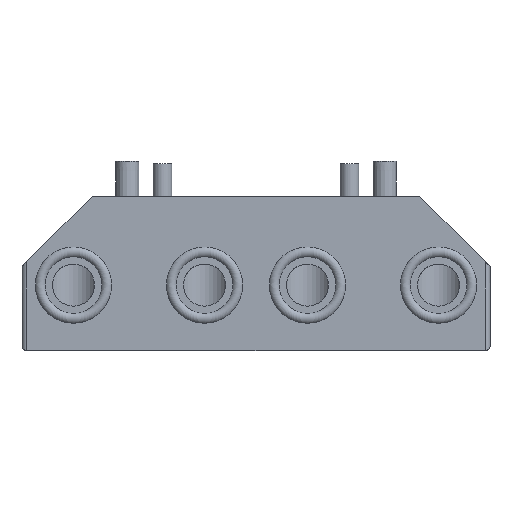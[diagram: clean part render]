
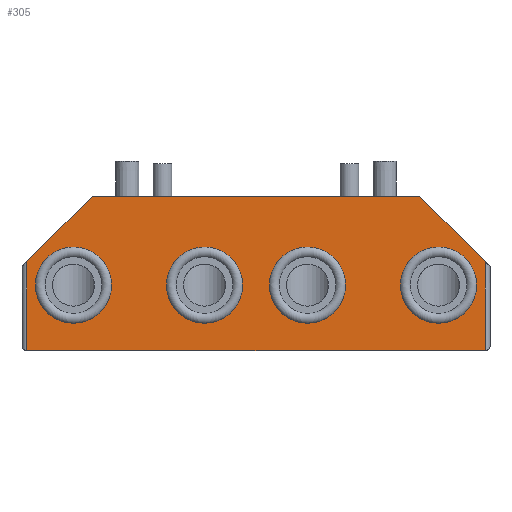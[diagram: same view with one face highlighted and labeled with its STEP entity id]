
A CAD part, top view. The second image highlights one B-rep face of the part: STEP entity #305.
In plain terms, the highlighted planar face has unit normal (0, 0, 1).
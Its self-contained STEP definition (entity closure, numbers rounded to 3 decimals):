
#305=ADVANCED_FACE('',(#643,#644,#645,#646,#647),#648,.T.);
#643=FACE_BOUND('',#992,.T.);
#644=FACE_BOUND('',#993,.T.);
#645=FACE_BOUND('',#994,.T.);
#646=FACE_BOUND('',#995,.T.);
#647=FACE_OUTER_BOUND('',#996,.T.);
#648=PLANE('',#997);
#992=EDGE_LOOP('',(#1578));
#993=EDGE_LOOP('',(#1579));
#994=EDGE_LOOP('',(#1580));
#995=EDGE_LOOP('',(#1581));
#996=EDGE_LOOP('',(#1582,#1583,#1584,#1585,#1586,#1587));
#997=AXIS2_PLACEMENT_3D('',#1588,#1589,#1590);
#1578=ORIENTED_EDGE('',*,*,#1882,.F.);
#1579=ORIENTED_EDGE('',*,*,#1900,.F.);
#1580=ORIENTED_EDGE('',*,*,#1897,.F.);
#1581=ORIENTED_EDGE('',*,*,#1907,.F.);
#1582=ORIENTED_EDGE('',*,*,#1789,.T.);
#1583=ORIENTED_EDGE('',*,*,#1908,.T.);
#1584=ORIENTED_EDGE('',*,*,#1826,.T.);
#1585=ORIENTED_EDGE('',*,*,#1738,.T.);
#1586=ORIENTED_EDGE('',*,*,#1759,.T.);
#1587=ORIENTED_EDGE('',*,*,#1756,.T.);
#1588=CARTESIAN_POINT('',(-50.0,-33.0,14.0));
#1589=DIRECTION('',(0.0,0.0,1.0));
#1590=DIRECTION('',(1.0,0.0,0.0));
#1738=EDGE_CURVE('',#1992,#1993,#1994,.T.);
#1756=EDGE_CURVE('',#2026,#2024,#2027,.T.);
#1759=EDGE_CURVE('',#1993,#2026,#2030,.T.);
#1789=EDGE_CURVE('',#2024,#2077,#2079,.T.);
#1826=EDGE_CURVE('',#2132,#1992,#2133,.T.);
#1882=EDGE_CURVE('',#2210,#2210,#2211,.T.);
#1897=EDGE_CURVE('',#2228,#2228,#2229,.T.);
#1900=EDGE_CURVE('',#2233,#2233,#2234,.T.);
#1907=EDGE_CURVE('',#2242,#2242,#2243,.T.);
#1908=EDGE_CURVE('',#2077,#2132,#2244,.T.);
#1992=VERTEX_POINT('',#2419);
#1993=VERTEX_POINT('',#2420);
#1994=LINE('',#2421,#2422);
#2024=VERTEX_POINT('',#2459);
#2026=VERTEX_POINT('',#2462);
#2027=LINE('',#2463,#2464);
#2030=LINE('',#2468,#2469);
#2077=VERTEX_POINT('',#2610);
#2079=LINE('',#2612,#2613);
#2132=VERTEX_POINT('',#2837);
#2133=LINE('',#2838,#2839);
#2210=VERTEX_POINT('',#2932);
#2211=CIRCLE('',#2933,8.139);
#2228=VERTEX_POINT('',#2954);
#2229=CIRCLE('',#2955,8.139);
#2233=VERTEX_POINT('',#2959);
#2234=CIRCLE('',#2960,8.139);
#2242=VERTEX_POINT('',#2969);
#2243=CIRCLE('',#2970,8.139);
#2244=LINE('',#2971,#2972);
#2419=CARTESIAN_POINT('',(-35.0,0.0,14.0));
#2420=CARTESIAN_POINT('',(-49.0,-14.0,14.0));
#2421=CARTESIAN_POINT('',(-59.0,-24.0,14.0));
#2422=VECTOR('',#3045,1.0);
#2459=CARTESIAN_POINT('',(49.0,-33.0,14.0));
#2462=CARTESIAN_POINT('',(-49.0,-33.0,14.0));
#2463=CARTESIAN_POINT('',(-50.0,-33.0,14.0));
#2464=VECTOR('',#3075,1.0);
#2468=CARTESIAN_POINT('',(-49.0,-33.0,14.0));
#2469=VECTOR('',#3077,1.0);
#2610=CARTESIAN_POINT('',(49.0,-14.0,14.0));
#2612=CARTESIAN_POINT('',(49.0,0.0,14.0));
#2613=VECTOR('',#3119,1.0);
#2837=CARTESIAN_POINT('',(35.0,0.0,14.0));
#2838=CARTESIAN_POINT('',(50.0,0.0,14.0));
#2839=VECTOR('',#3162,1.0);
#2932=CARTESIAN_POINT('',(47.139,-19.0,14.0));
#2933=AXIS2_PLACEMENT_3D('',#3224,#3225,#3226);
#2954=CARTESIAN_POINT('',(-30.861,-19.0,14.0));
#2955=AXIS2_PLACEMENT_3D('',#3237,#3238,#3239);
#2959=CARTESIAN_POINT('',(-2.861,-19.0,14.0));
#2960=AXIS2_PLACEMENT_3D('',#3243,#3244,#3245);
#2969=CARTESIAN_POINT('',(19.139,-19.0,14.0));
#2970=AXIS2_PLACEMENT_3D('',#3250,#3251,#3252);
#2971=CARTESIAN_POINT('',(9.,26.0,14.0));
#2972=VECTOR('',#3253,1.0);
#3045=DIRECTION('',(-0.707,-0.707,0.0));
#3075=DIRECTION('',(1.0,0.0,0.0));
#3077=DIRECTION('',(0.0,-1.0,0.0));
#3119=DIRECTION('',(0.0,1.0,0.0));
#3162=DIRECTION('',(-1.0,0.0,0.0));
#3224=CARTESIAN_POINT('',(39.0,-19.0,14.0));
#3225=DIRECTION('',(0.0,0.0,1.0));
#3226=DIRECTION('',(1.0,0.0,0.0));
#3237=CARTESIAN_POINT('',(-39.0,-19.0,14.0));
#3238=DIRECTION('',(0.0,0.0,1.0));
#3239=DIRECTION('',(1.0,0.0,0.0));
#3243=CARTESIAN_POINT('',(-11.0,-19.0,14.0));
#3244=DIRECTION('',(0.0,0.0,1.0));
#3245=DIRECTION('',(1.0,0.0,0.0));
#3250=CARTESIAN_POINT('',(11.0,-19.0,14.0));
#3251=DIRECTION('',(0.0,0.0,1.0));
#3252=DIRECTION('',(1.0,0.0,0.0));
#3253=DIRECTION('',(-0.707,0.707,0.0));
